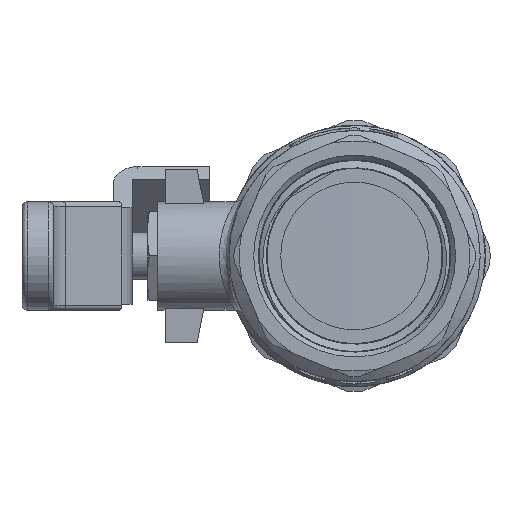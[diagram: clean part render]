
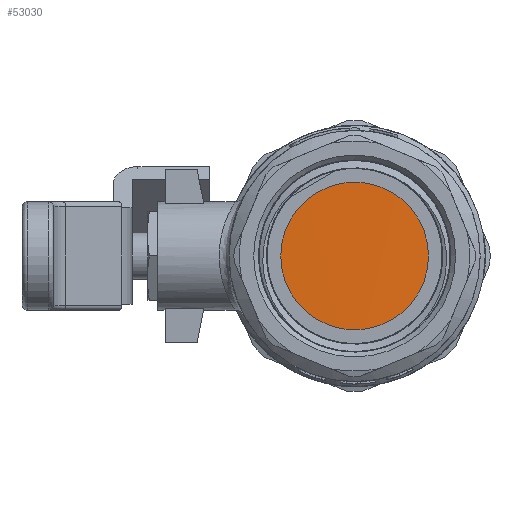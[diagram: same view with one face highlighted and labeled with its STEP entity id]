
A CAD part, front view. The second image highlights one B-rep face of the part: STEP entity #53030.
In plain terms, the highlighted cylindrical face has radius 24 mm (diameter 48 mm), a full revolution.
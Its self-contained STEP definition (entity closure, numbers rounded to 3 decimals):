
#808=CYLINDRICAL_SURFACE('',#56055,24.);
#5018=B_SPLINE_CURVE_WITH_KNOTS('',3,(#146629,#146630,#146631,#146632,#146633,
#146634,#146635,#146636,#146637,#146638,#146639,#146640,#146641,#146642,
#146643,#146644,#146645),.UNSPECIFIED.,.F.,.F.,(4,1,1,1,1,1,1,1,1,1,1,1,
1,1,4),(6.283,6.43,6.922,7.414,
7.907,8.399,8.891,9.384,9.876,
10.368,10.861,11.353,11.846,12.338,
12.566),.UNSPECIFIED.);
#9268=FACE_OUTER_BOUND('',#12236,.T.);
#12236=EDGE_LOOP('',(#47373,#47374,#47375));
#15175=LINE('',#146445,#18249);
#15180=LINE('',#146628,#18254);
#18249=VECTOR('',#64109,24.);
#18254=VECTOR('',#64128,24.);
#23717=VERTEX_POINT('',#146443);
#23718=VERTEX_POINT('',#146444);
#23726=VERTEX_POINT('',#146627);
#31671=EDGE_CURVE('',#23717,#23718,#15175,.T.);
#31684=EDGE_CURVE('',#23726,#23718,#15180,.T.);
#31685=EDGE_CURVE('',#23726,#23717,#5018,.T.);
#47373=ORIENTED_EDGE('',*,*,#31671,.T.);
#47374=ORIENTED_EDGE('',*,*,#31684,.F.);
#47375=ORIENTED_EDGE('',*,*,#31685,.T.);
#53030=ADVANCED_FACE('',(#9268),#808,.T.);
#56055=AXIS2_PLACEMENT_3D('',#146626,#64126,#64127);
#64109=DIRECTION('',(1.,0.,0.));
#64126=DIRECTION('center_axis',(1.,0.,0.));
#64127=DIRECTION('ref_axis',(0.,0.,1.));
#64128=DIRECTION('',(-1.,0.,0.));
#146443=CARTESIAN_POINT('',(23.483,0.,-24.));
#146444=CARTESIAN_POINT('',(24.969,0.,-24.));
#146445=CARTESIAN_POINT('',(23.479,0.,-24.));
#146626=CARTESIAN_POINT('Origin',(23.479,0.,0.));
#146627=CARTESIAN_POINT('',(24.985,0.,-24.));
#146628=CARTESIAN_POINT('',(23.479,0.,-24.));
#146629=CARTESIAN_POINT('Ctrl Pts',(24.985,-0.001,
-23.999));
#146630=CARTESIAN_POINT('Ctrl Pts',(24.973,-1.173,
-24.));
#146631=CARTESIAN_POINT('Ctrl Pts',(24.922,-6.284,
-23.632));
#146632=CARTESIAN_POINT('Ctrl Pts',(24.832,-14.903,
-20.062));
#146633=CARTESIAN_POINT('Ctrl Pts',(24.714,-22.616,
-10.635));
#146634=CARTESIAN_POINT('Ctrl Pts',(24.597,-24.957,1.319));
#146635=CARTESIAN_POINT('Ctrl Pts',(24.479,-21.369,12.959));
#146636=CARTESIAN_POINT('Ctrl Pts',(24.361,-12.705,
21.521));
#146637=CARTESIAN_POINT('Ctrl Pts',(24.244,-1.024,
24.97));
#146638=CARTESIAN_POINT('Ctrl Pts',(24.126,10.901,22.489));
#146639=CARTESIAN_POINT('Ctrl Pts',(24.008,20.237,14.665));
#146640=CARTESIAN_POINT('Ctrl Pts',(23.891,24.765,3.357));
#146641=CARTESIAN_POINT('Ctrl Pts',(23.773,23.41,-8.748));
#146642=CARTESIAN_POINT('Ctrl Pts',(23.655,16.495,-18.775));
#146643=CARTESIAN_POINT('Ctrl Pts',(23.559,7.596,-23.347));
#146644=CARTESIAN_POINT('Ctrl Pts',(23.501,1.829,-23.998));
#146645=CARTESIAN_POINT('Ctrl Pts',(23.483,0.,
-23.998));
